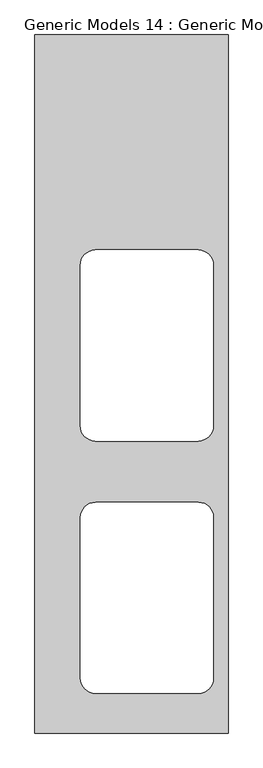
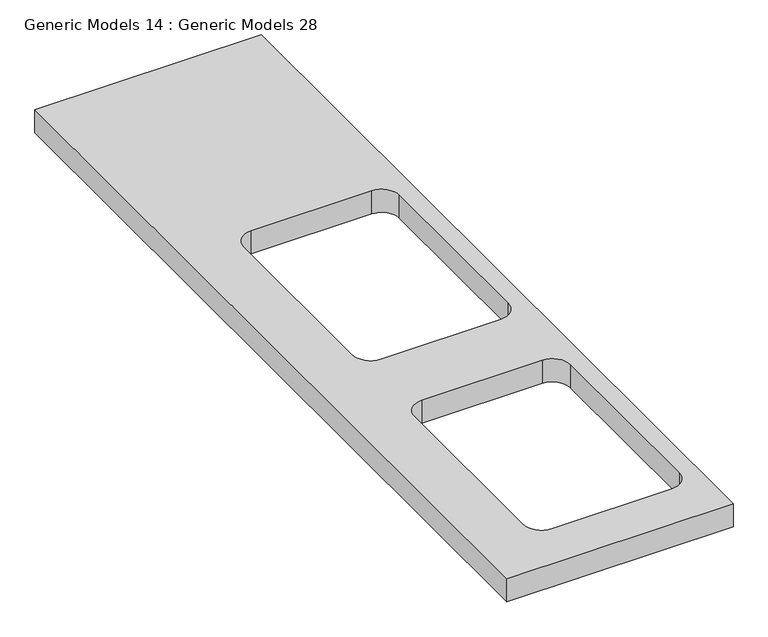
"""IFC4 building model written with IfcOpenShell, lengths in millimetres: proxy geometry, Generic Models 14 : Generic Models 28."""

from ifc_helpers import new_model, si_unit, point, frame, frame_2d, origin, place, context, project, spatial, polyline, circle_curve, trimmed, segment, composite_curve, outline, extrude, source, transform, mapped, element, save


def generic_models_14_generic_models_28_07957dc1(model_context):
    return source(origin(), model_context, "Body", "SweptSolid", [
        extrude(outline(polyline([(-16927.2739616, -12614.5871375), (-16927.2739616, -14964.5871375), (-17577.2739616, -14964.5871375), (-17577.2739616, -12614.5871375), (-16927.2739616, -12614.5871375)]), holes=[composite_curve([segment(polyline([(-17373.6338515, -13981.5778838), (-17027.6338515, -13981.5778838)]), True, "CONTINUOUS"), segment(trimmed(circle_curve(frame_2d((-17027.6338515, -13930.7778838)), 50.8), [point((-17027.6338515, -13981.5778838))], [point((-16976.8338515, -13930.7778838))], True, "CARTESIAN"), True, "CONTINUOUS"), segment(polyline([(-16976.8338515, -13930.7778838), (-16976.8338515, -13389.2778838)]), True, "CONTINUOUS"), segment(trimmed(circle_curve(frame_2d((-17027.6338515, -13389.2778838)), 50.8), [point((-16976.8338515, -13389.2778838))], [point((-17027.6338515, -13338.4778838))], True, "CARTESIAN"), True, "CONTINUOUS"), segment(polyline([(-17027.6338515, -13338.4778838), (-17373.6338515, -13338.4778838)]), True, "CONTINUOUS"), segment(trimmed(circle_curve(frame_2d((-17373.6338515, -13389.2778838)), 50.8), [point((-17373.6338515, -13338.4778838))], [point((-17424.4338515, -13389.2778838))], True, "CARTESIAN"), True, "CONTINUOUS"), segment(polyline([(-17424.4338515, -13389.2778838), (-17424.4338515, -13930.7778838)]), True, "CONTINUOUS"), segment(trimmed(circle_curve(frame_2d((-17373.6338515, -13930.7778838)), 50.8), [point((-17424.4338515, -13930.7778838))], [point((-17373.6338515, -13981.5778838))], True, "CARTESIAN"), True, "CONTINUOUS")], self_intersect=False), composite_curve([segment(polyline([(-17373.0272498, -14830.9712821), (-17027.0272498, -14830.9712821)]), True, "CONTINUOUS"), segment(trimmed(circle_curve(frame_2d((-17027.0272498, -14780.1712821)), 50.8), [point((-17027.0272498, -14830.9712821))], [point((-16976.2272498, -14780.1712821))], True, "CARTESIAN"), True, "CONTINUOUS"), segment(polyline([(-16976.2272498, -14780.1712821), (-16976.2272498, -14238.6712821)]), True, "CONTINUOUS"), segment(trimmed(circle_curve(frame_2d((-17027.0272498, -14238.6712821)), 50.8), [point((-16976.2272498, -14238.6712821))], [point((-17027.0272498, -14187.8712821))], True, "CARTESIAN"), True, "CONTINUOUS"), segment(polyline([(-17027.0272498, -14187.8712821), (-17373.0272498, -14187.8712821)]), True, "CONTINUOUS"), segment(trimmed(circle_curve(frame_2d((-17373.0272498, -14238.6712821)), 50.8), [point((-17373.0272498, -14187.8712821))], [point((-17423.8272498, -14238.6712821))], True, "CARTESIAN"), True, "CONTINUOUS"), segment(polyline([(-17423.8272498, -14238.6712821), (-17423.8272498, -14780.1712821)]), True, "CONTINUOUS"), segment(trimmed(circle_curve(frame_2d((-17373.0272498, -14780.1712821)), 50.8), [point((-17423.8272498, -14780.1712821))], [point((-17373.0272498, -14830.9712821))], True, "CARTESIAN"), True, "CONTINUOUS")], self_intersect=False)]), frame((0.0, 0.0, 830.0), z_axis=(0.0, 0.0, 1.0), x_axis=(1.0, 0.0, 0.0)), (0.0, 0.0, 1.0), 70.0),
    ])


if __name__ == "__main__":
    model = new_model("IFC4")
    model_context = context("Model", 3, world=origin())
    ifc_project = project(units=[si_unit("LENGTHUNIT", "METRE", prefix="MILLI")], contexts=[model_context])
    site = spatial("IfcSite", under=ifc_project)
    building = spatial("IfcBuilding", under=site)
    placement = place(None, origin())
    generic_models_14_generic_models_28_shape = generic_models_14_generic_models_28_07957dc1(model_context)
    element("IfcBuildingElementProxy", 1, Name="Generic Models 14 : Generic Models 28", ObjectType="Generic Models 14 : Generic Models 28", at=placement, inside=building, context=model_context, shape_type="MappedRepresentation", body=[
        mapped(generic_models_14_generic_models_28_shape, transform((0.0, 0.0, 0.0), x_axis=(1.0, 0.0, 0.0), y_axis=(0.0, 1.0, 0.0), z_axis=(0.0, 0.0, 1.0))),
    ])
    save(model, "model.ifc")
